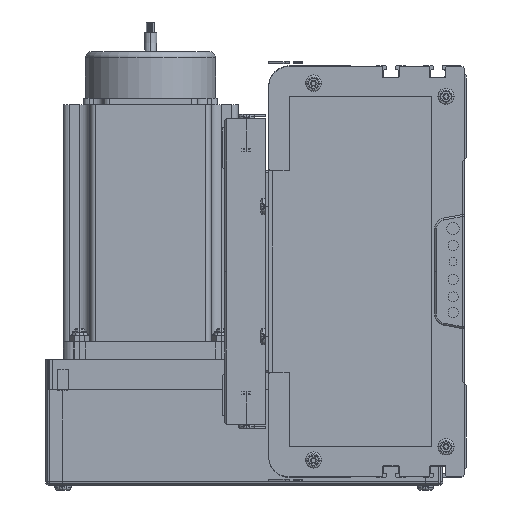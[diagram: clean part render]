
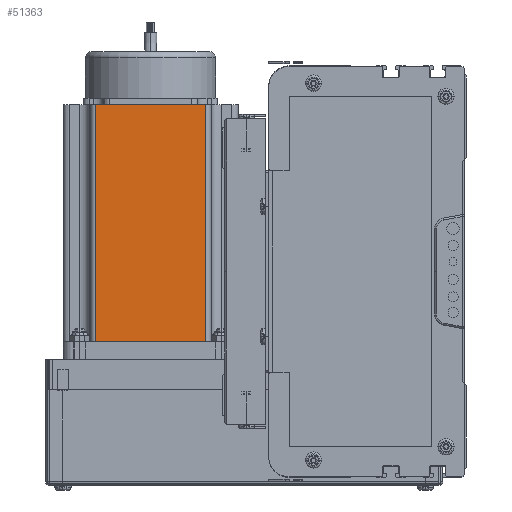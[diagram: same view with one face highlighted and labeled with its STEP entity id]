
A CAD part, left-side view. The second image highlights one B-rep face of the part: STEP entity #51363.
In plain terms, the highlighted planar face has unit normal (-1, 0, 0) as drawn and (0, -1, 0) by its records, which use the part's own axes.
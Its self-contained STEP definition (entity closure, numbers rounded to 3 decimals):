
#50322 = VERTEX_POINT ( 'NONE', #144248 ) ;
#50592 = EDGE_LOOP ( 'NONE', ( #50909, #50966, #52011, #52063 ) ) ;
#50909 = ORIENTED_EDGE ( 'NONE', *, *, #50969, .T. ) ;
#50966 = ORIENTED_EDGE ( 'NONE', *, *, #50967, .T. ) ;
#50967 = EDGE_CURVE ( 'NONE', #50322, #51158, #145178, .T. ) ;
#50969 = EDGE_CURVE ( 'NONE', #51157, #50322, #145149, .T. ) ;
#51157 = VERTEX_POINT ( 'NONE', #145453 ) ;
#51158 = VERTEX_POINT ( 'NONE', #145452 ) ;
#51363 = ADVANCED_FACE ( 'NONE', ( #146165 ), #146197, .F. ) ;
#52011 = ORIENTED_EDGE ( 'NONE', *, *, #52346, .F. ) ;
#52026 = EDGE_CURVE ( 'NONE', #52263, #51157, #154770, .T. ) ;
#52063 = ORIENTED_EDGE ( 'NONE', *, *, #52026, .T. ) ;
#52263 = VERTEX_POINT ( 'NONE', #156449 ) ;
#52346 = EDGE_CURVE ( 'NONE', #52263, #51158, #157321, .T. ) ;
#144248 = CARTESIAN_POINT ( 'NONE',  ( 69.74, 0., 0. ) ) ;
#145149 = LINE ( 'NONE', #145153, #145305 ) ;
#145153 = CARTESIAN_POINT ( 'NONE',  ( 0., 0., 0. ) ) ;
#145178 = LINE ( 'NONE', #145183, #145192 ) ;
#145182 = DIRECTION ( 'NONE',  ( 0., 0., 1. ) ) ;
#145183 = CARTESIAN_POINT ( 'NONE',  ( 69.74, 0., 116.5 ) ) ;
#145192 = VECTOR ( 'NONE', #145182, 1000. ) ;
#145303 = DIRECTION ( 'NONE',  ( 1., 0., 0. ) ) ;
#145305 = VECTOR ( 'NONE', #145303, 1000. ) ;
#145452 = CARTESIAN_POINT ( 'NONE',  ( 69.74, 0., 116.5 ) ) ;
#145453 = CARTESIAN_POINT ( 'NONE',  ( 16.16, 0., 0. ) ) ;
#146165 = FACE_OUTER_BOUND ( 'NONE', #50592, .T. ) ;
#146197 = PLANE ( 'NONE',  #146201 ) ;
#146201 = AXIS2_PLACEMENT_3D ( 'NONE', #146220, #146212, #146307 ) ;
#146212 = DIRECTION ( 'NONE',  ( 0., 1., 0. ) ) ;
#146220 = CARTESIAN_POINT ( 'NONE',  ( 0., 0., 116.5 ) ) ;
#146307 = DIRECTION ( 'NONE',  ( 0., 0., 1. ) ) ;
#154745 = DIRECTION ( 'NONE',  ( 0., 0., -1. ) ) ;
#154746 = VECTOR ( 'NONE', #154745, 1000. ) ;
#154768 = CARTESIAN_POINT ( 'NONE',  ( 16.16, 0., 116.5 ) ) ;
#154770 = LINE ( 'NONE', #154768, #154746 ) ;
#156449 = CARTESIAN_POINT ( 'NONE',  ( 16.16, 0., 116.5 ) ) ;
#157222 = DIRECTION ( 'NONE',  ( 1., 0., 0. ) ) ;
#157224 = VECTOR ( 'NONE', #157222, 1000. ) ;
#157319 = CARTESIAN_POINT ( 'NONE',  ( 0., 0., 116.5 ) ) ;
#157321 = LINE ( 'NONE', #157319, #157224 ) ;
